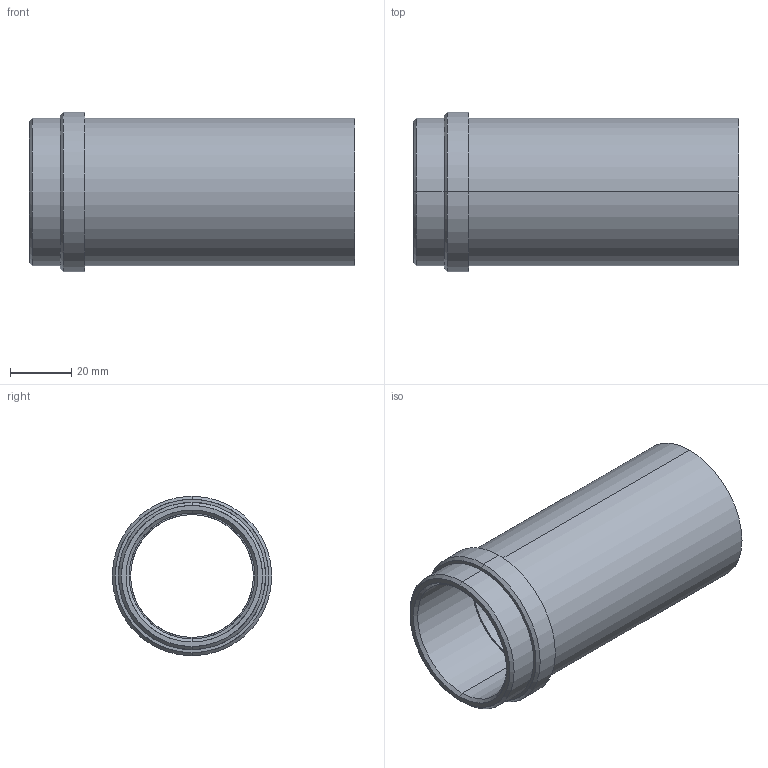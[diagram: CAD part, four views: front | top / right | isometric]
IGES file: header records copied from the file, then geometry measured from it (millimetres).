
Start section: START RECORD GO HERE.
Global section: file name: 358-40x106.igs; native system: DASSAULT SYSTEMES CATIA V5 R20 - www.3ds.com; preprocessor: CATIA Version 5 Release 20 ; author: Utente; organization: NB04-ASUS; date: 20210409.165259; units: millimetre
Bounding box: 106 x 52 x 52 mm (x, y, z)
Surface area: 30854.3 mm2 (no closed solid volume)
Topology: 0 solids, 0 shells, 23 faces, 148 edges, 148 vertices
Faces by surface type: revolution 18, plane 5
